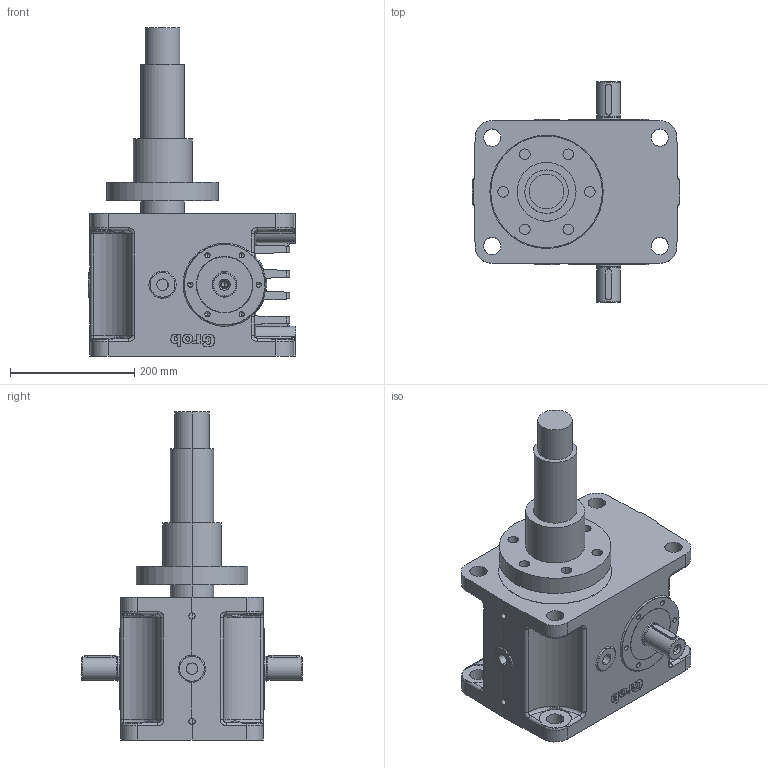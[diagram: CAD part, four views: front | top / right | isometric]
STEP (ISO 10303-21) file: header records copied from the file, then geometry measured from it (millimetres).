
FILE_DESCRIPTION(('STEP AP203'),'1');
FILE_NAME('hmc_20-lmn-kd-1f-z-0100-0240-tr70x12-bpos0.stp','2025-08-19T11:40:59',('TraceParts'),('TraceParts S.A.'),'Spatial InterOp 3D',' ',' ');
FILE_SCHEMA(('CONFIG_CONTROL_DESIGN'));
Length unit declared in the file: millimetre
Products named in the file (1): 1
Bounding box: 334 x 356 x 529 mm (x, y, z)
Volume: 16130304.5 mm3; surface area: 649194.5 mm2
Topology: 3 solids, 3 shells, 548 faces, 1453 edges, 923 vertices
Faces by surface type: cylinder 206, plane 153, bspline 125, cone 52, torus 12
Entity records: 34695 total; most frequent: CARTESIAN_POINT 22434, ORIENTED_EDGE 2842, DIRECTION 1992, EDGE_CURVE 1421, VERTEX_POINT 923, AXIS2_PLACEMENT_3D 700, EDGE_LOOP 628, LINE 592
